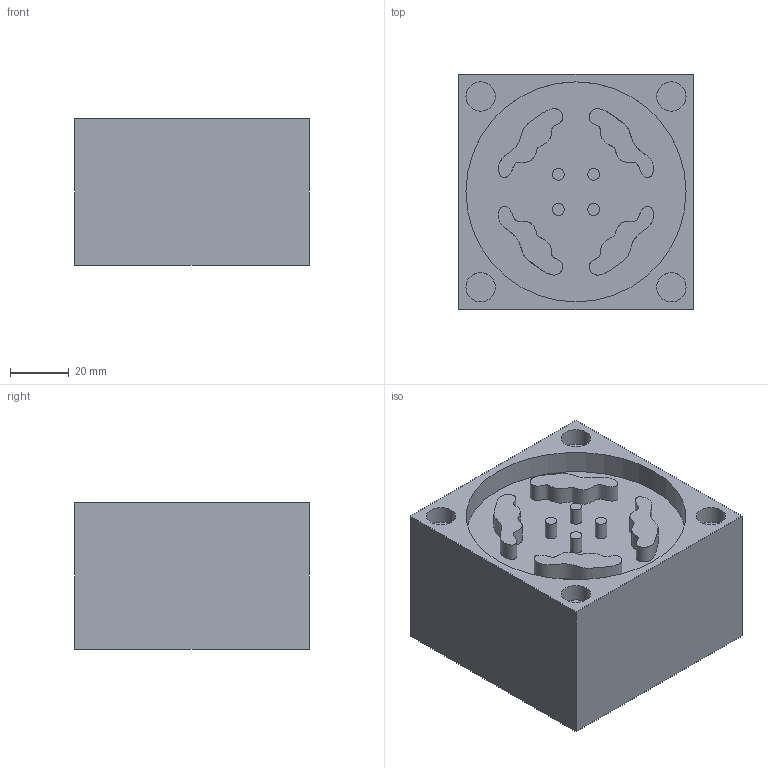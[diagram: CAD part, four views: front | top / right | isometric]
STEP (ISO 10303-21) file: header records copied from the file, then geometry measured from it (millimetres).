
FILE_DESCRIPTION(/* description */ (''),/* implementation_level */ '2;1');
FILE_NAME(/* name */ '9.step',/* time_stamp */ '2025-09-02T11:28:22+02:00',/* author */ (''),/* organization */ (''),/* preprocessor_version */ 'ST-DEVELOPER v20.1',/* originating_system */ 'Autodesk Translation Framework v14.10.0.0',/* authorisation */ '');
FILE_SCHEMA (('AUTOMOTIVE_DESIGN { 1 0 10303 214 3 1 1 }'));
Length unit declared in the file: millimetre
Products named in the file (1): Stufe 8
Bounding box: 80 x 80 x 50 mm (x, y, z)
Volume: 286349.3 mm3; surface area: 33401.9 mm2
Topology: 1 solids, 1 shells, 32 faces, 51 edges, 34 vertices
Faces by surface type: plane 19, cylinder 9, bspline 4
Full cylindrical faces by diameter (mm): 4 x4, 10 x4, 75 x1
Entity records: 1834 total; most frequent: CARTESIAN_POINT 1226, DIRECTION 119, ORIENTED_EDGE 102, EDGE_CURVE 51, AXIS2_PLACEMENT_3D 47, EDGE_LOOP 45, VERTEX_POINT 34, FACE_OUTER_BOUND 32
